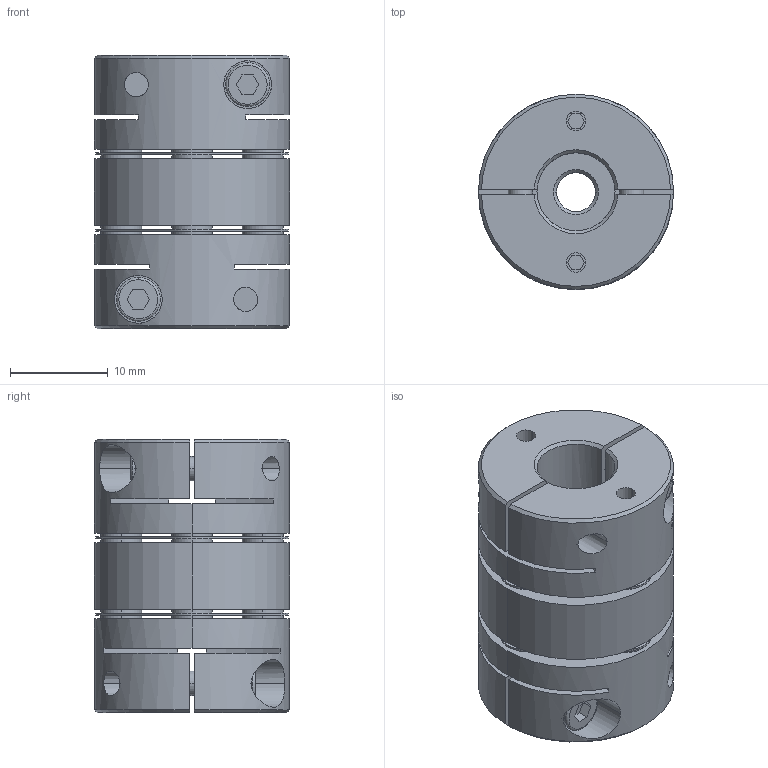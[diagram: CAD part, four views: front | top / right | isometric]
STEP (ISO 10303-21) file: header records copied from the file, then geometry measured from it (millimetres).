
FILE_DESCRIPTION((''),'2;1');
FILE_NAME('LA-20LS-4×8.stp','2015-10-05T09:56:35',(''),(''),'AutoCAD STEP 2000i','AutoCAD 2000i',', , ');
FILE_SCHEMA(('CONFIG_CONTROL_DESIGN'));
Length unit declared in the file: millimetre
Products named in the file (4): LA-20LS-4×8; 忣兜1; HUB-7-1; HUB-4-1
Assembly tree (3 placements, depth 2):
  LA-20LS-4×8
    忣兜1
    HUB-7-1
    HUB-4-1
Bounding box: 20 x 20 x 28 mm (x, y, z)
Volume: 6641.9 mm3; surface area: 6198 mm2
Topology: 1 solids, 1 shells, 276 faces, 715 edges, 491 vertices
Faces by surface type: cylinder 128, plane 120, torus 16, cone 12
Entity records: 9101 total; most frequent: CARTESIAN_POINT 1887, DIRECTION 1574, ORIENTED_EDGE 1400, EDGE_CURVE 700, AXIS2_PLACEMENT_3D 611, VERTEX_POINT 464, EDGE_LOOP 356, VECTOR 352
